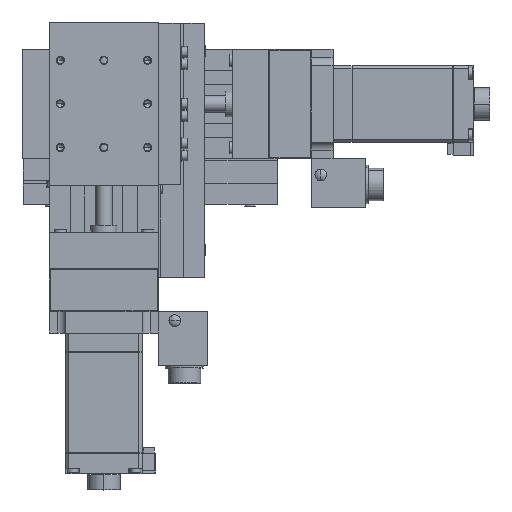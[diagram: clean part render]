
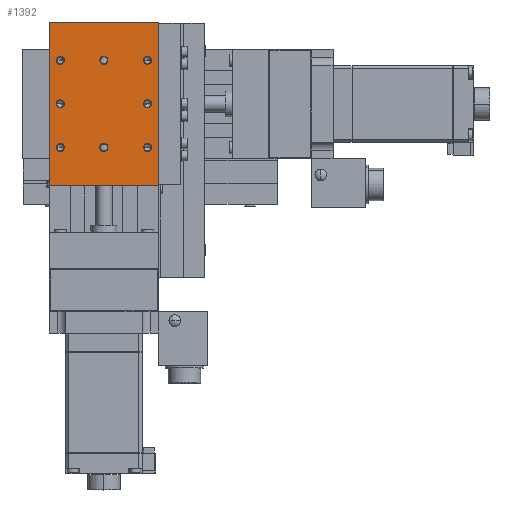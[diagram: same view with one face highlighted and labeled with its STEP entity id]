
A CAD part, top view. The second image highlights one B-rep face of the part: STEP entity #1392.
In plain terms, the highlighted planar face has unit normal (0, 0, 1).
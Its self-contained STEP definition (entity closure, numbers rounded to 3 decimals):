
#1392=ADVANCED_FACE('',(#3520,#3521,#3522,#3523,#3524,#3525,#3526,#3527,#3528),#3529,.F.);
#3520=FACE_BOUND('',#6282,.T.);
#3521=FACE_BOUND('',#6283,.T.);
#3522=FACE_BOUND('',#6284,.T.);
#3523=FACE_BOUND('',#6285,.T.);
#3524=FACE_BOUND('',#6286,.T.);
#3525=FACE_BOUND('',#6287,.T.);
#3526=FACE_BOUND('',#6288,.T.);
#3527=FACE_BOUND('',#6289,.T.);
#3528=FACE_OUTER_BOUND('',#6290,.T.);
#3529=PLANE('',#6291);
#6282=EDGE_LOOP('',(#13346,#13347));
#6283=EDGE_LOOP('',(#13348,#13349));
#6284=EDGE_LOOP('',(#13350,#13351));
#6285=EDGE_LOOP('',(#13352,#13353));
#6286=EDGE_LOOP('',(#13354,#13355));
#6287=EDGE_LOOP('',(#13356,#13357));
#6288=EDGE_LOOP('',(#13358,#13359));
#6289=EDGE_LOOP('',(#13360,#13361));
#6290=EDGE_LOOP('',(#13362,#13363,#13364,#13365));
#6291=AXIS2_PLACEMENT_3D('',#13366,#13367,#13368);
#13346=ORIENTED_EDGE('',*,*,#19612,.T.);
#13347=ORIENTED_EDGE('',*,*,#19552,.T.);
#13348=ORIENTED_EDGE('',*,*,#19632,.T.);
#13349=ORIENTED_EDGE('',*,*,#19538,.T.);
#13350=ORIENTED_EDGE('',*,*,#19693,.T.);
#13351=ORIENTED_EDGE('',*,*,#19462,.T.);
#13352=ORIENTED_EDGE('',*,*,#19638,.T.);
#13353=ORIENTED_EDGE('',*,*,#19535,.T.);
#13354=ORIENTED_EDGE('',*,*,#19611,.T.);
#13355=ORIENTED_EDGE('',*,*,#19556,.T.);
#13356=ORIENTED_EDGE('',*,*,#19627,.T.);
#13357=ORIENTED_EDGE('',*,*,#19546,.T.);
#13358=ORIENTED_EDGE('',*,*,#19689,.T.);
#13359=ORIENTED_EDGE('',*,*,#19522,.T.);
#13360=ORIENTED_EDGE('',*,*,#19694,.T.);
#13361=ORIENTED_EDGE('',*,*,#19482,.T.);
#13362=ORIENTED_EDGE('',*,*,#19669,.T.);
#13363=ORIENTED_EDGE('',*,*,#19684,.F.);
#13364=ORIENTED_EDGE('',*,*,#19695,.F.);
#13365=ORIENTED_EDGE('',*,*,#19673,.T.);
#13366=CARTESIAN_POINT('',(20.,-30.,47.));
#13367=DIRECTION('',(0.,0.,-1.0));
#13368=DIRECTION('',(1.0,0.,0.));
#19462=EDGE_CURVE('',#23803,#23807,#23809,.T.);
#19482=EDGE_CURVE('',#23843,#23847,#23849,.T.);
#19522=EDGE_CURVE('',#23918,#23920,#23922,.T.);
#19535=EDGE_CURVE('',#23939,#23941,#23943,.T.);
#19538=EDGE_CURVE('',#23944,#23946,#23948,.T.);
#19546=EDGE_CURVE('',#23958,#23962,#23964,.T.);
#19552=EDGE_CURVE('',#23970,#23972,#23974,.T.);
#19556=EDGE_CURVE('',#23976,#23980,#23982,.T.);
#19611=EDGE_CURVE('',#23980,#23976,#24072,.T.);
#19612=EDGE_CURVE('',#23972,#23970,#24073,.T.);
#19627=EDGE_CURVE('',#23962,#23958,#24096,.T.);
#19632=EDGE_CURVE('',#23946,#23944,#24105,.T.);
#19638=EDGE_CURVE('',#23941,#23939,#24113,.T.);
#19669=EDGE_CURVE('',#24158,#24156,#24159,.T.);
#19673=EDGE_CURVE('',#24163,#24158,#24164,.T.);
#19684=EDGE_CURVE('',#24177,#24156,#24179,.T.);
#19689=EDGE_CURVE('',#23920,#23918,#24186,.T.);
#19693=EDGE_CURVE('',#23807,#23803,#24190,.T.);
#19694=EDGE_CURVE('',#23847,#23843,#24191,.T.);
#19695=EDGE_CURVE('',#24163,#24177,#24192,.T.);
#23803=VERTEX_POINT('',#30258);
#23807=VERTEX_POINT('',#30263);
#23809=CIRCLE('',#30266,1.5);
#23843=VERTEX_POINT('',#30306);
#23847=VERTEX_POINT('',#30311);
#23849=CIRCLE('',#30314,1.5);
#23918=VERTEX_POINT('',#30401);
#23920=VERTEX_POINT('',#30404);
#23922=CIRCLE('',#30407,1.5);
#23939=VERTEX_POINT('',#30430);
#23941=VERTEX_POINT('',#30433);
#23943=CIRCLE('',#30436,1.5);
#23944=VERTEX_POINT('',#30437);
#23946=VERTEX_POINT('',#30440);
#23948=CIRCLE('',#30443,1.5);
#23958=VERTEX_POINT('',#30455);
#23962=VERTEX_POINT('',#30460);
#23964=CIRCLE('',#30463,1.5);
#23970=VERTEX_POINT('',#30471);
#23972=VERTEX_POINT('',#30474);
#23974=CIRCLE('',#30477,1.5);
#23976=VERTEX_POINT('',#30479);
#23980=VERTEX_POINT('',#30484);
#23982=CIRCLE('',#30487,1.5);
#24072=CIRCLE('',#30616,1.5);
#24073=CIRCLE('',#30617,1.5);
#24096=CIRCLE('',#30650,1.5);
#24105=CIRCLE('',#30663,1.5);
#24113=CIRCLE('',#30673,1.5);
#24156=VERTEX_POINT('',#30741);
#24158=VERTEX_POINT('',#30744);
#24159=LINE('',#30745,#30746);
#24163=VERTEX_POINT('',#30751);
#24164=LINE('',#30752,#30753);
#24177=VERTEX_POINT('',#30773);
#24179=LINE('',#30776,#30777);
#24186=CIRCLE('',#30787,1.5);
#24190=CIRCLE('',#30793,1.5);
#24191=CIRCLE('',#30794,1.5);
#24192=LINE('',#30795,#30796);
#30258=CARTESIAN_POINT('',(14.5,16.,47.));
#30263=CARTESIAN_POINT('',(17.5,16.,47.));
#30266=AXIS2_PLACEMENT_3D('',#36672,#36673,#36674);
#30306=CARTESIAN_POINT('',(-17.5,16.,47.));
#30311=CARTESIAN_POINT('',(-14.5,16.,47.));
#30314=AXIS2_PLACEMENT_3D('',#36716,#36717,#36718);
#30401=CARTESIAN_POINT('',(-17.5,0.,47.));
#30404=CARTESIAN_POINT('',(-14.5,0.,47.));
#30407=AXIS2_PLACEMENT_3D('',#36796,#36797,#36798);
#30430=CARTESIAN_POINT('',(-1.5,-16.,47.));
#30433=CARTESIAN_POINT('',(1.5,-16.,47.));
#30436=AXIS2_PLACEMENT_3D('',#36819,#36820,#36821);
#30437=CARTESIAN_POINT('',(14.5,0.,47.));
#30440=CARTESIAN_POINT('',(17.5,0.,47.));
#30443=AXIS2_PLACEMENT_3D('',#36824,#36825,#36826);
#30455=CARTESIAN_POINT('',(-17.5,-16.,47.));
#30460=CARTESIAN_POINT('',(-14.5,-16.,47.));
#30463=AXIS2_PLACEMENT_3D('',#36840,#36841,#36842);
#30471=CARTESIAN_POINT('',(14.5,-16.,47.));
#30474=CARTESIAN_POINT('',(17.5,-16.,47.));
#30477=AXIS2_PLACEMENT_3D('',#36850,#36851,#36852);
#30479=CARTESIAN_POINT('',(-1.5,16.,47.));
#30484=CARTESIAN_POINT('',(1.5,16.,47.));
#30487=AXIS2_PLACEMENT_3D('',#36858,#36859,#36860);
#30616=AXIS2_PLACEMENT_3D('',#36945,#36946,#36947);
#30617=AXIS2_PLACEMENT_3D('',#36948,#36949,#36950);
#30650=AXIS2_PLACEMENT_3D('',#36973,#36974,#36975);
#30663=AXIS2_PLACEMENT_3D('',#36980,#36981,#36982);
#30673=AXIS2_PLACEMENT_3D('',#36994,#36995,#36996);
#30741=CARTESIAN_POINT('',(-20.,30.,47.));
#30744=CARTESIAN_POINT('',(20.,30.,47.));
#30745=CARTESIAN_POINT('',(20.,30.,47.));
#30746=VECTOR('',#37035,1000.0);
#30751=CARTESIAN_POINT('',(20.,-30.,47.));
#30752=CARTESIAN_POINT('',(20.,-30.,47.));
#30753=VECTOR('',#37043,1000.0);
#30773=CARTESIAN_POINT('',(-20.,-30.,47.));
#30776=CARTESIAN_POINT('',(-20.,-30.,47.));
#30777=VECTOR('',#37058,1000.0);
#30787=AXIS2_PLACEMENT_3D('',#37065,#37066,#37067);
#30793=AXIS2_PLACEMENT_3D('',#37073,#37074,#37075);
#30794=AXIS2_PLACEMENT_3D('',#37076,#37077,#37078);
#30795=CARTESIAN_POINT('',(20.,-30.,47.));
#30796=VECTOR('',#37079,1000.0);
#36672=CARTESIAN_POINT('',(16.,16.,47.));
#36673=DIRECTION('',(0.,0.,-1.0));
#36674=DIRECTION('',(1.0,0.,0.));
#36716=CARTESIAN_POINT('',(-16.,16.,47.));
#36717=DIRECTION('',(0.,0.,-1.0));
#36718=DIRECTION('',(1.0,0.,0.));
#36796=CARTESIAN_POINT('',(-16.,0.,47.));
#36797=DIRECTION('',(0.,0.,-1.0));
#36798=DIRECTION('',(1.0,0.,0.));
#36819=CARTESIAN_POINT('',(0.,-16.,47.));
#36820=DIRECTION('',(0.,0.,-1.0));
#36821=DIRECTION('',(1.0,0.,0.));
#36824=CARTESIAN_POINT('',(16.,0.,47.));
#36825=DIRECTION('',(0.,0.,-1.0));
#36826=DIRECTION('',(1.0,0.,0.));
#36840=CARTESIAN_POINT('',(-16.,-16.,47.));
#36841=DIRECTION('',(0.,0.,-1.0));
#36842=DIRECTION('',(1.0,0.,0.));
#36850=CARTESIAN_POINT('',(16.,-16.,47.));
#36851=DIRECTION('',(0.,0.,-1.0));
#36852=DIRECTION('',(1.0,0.,0.));
#36858=CARTESIAN_POINT('',(0.,16.,47.));
#36859=DIRECTION('',(0.,0.,-1.0));
#36860=DIRECTION('',(1.0,0.,0.));
#36945=CARTESIAN_POINT('',(0.,16.,47.));
#36946=DIRECTION('',(0.,0.,-1.0));
#36947=DIRECTION('',(1.0,0.,0.));
#36948=CARTESIAN_POINT('',(16.,-16.,47.));
#36949=DIRECTION('',(0.,0.,-1.0));
#36950=DIRECTION('',(1.0,0.,0.));
#36973=CARTESIAN_POINT('',(-16.,-16.,47.));
#36974=DIRECTION('',(0.,0.,-1.0));
#36975=DIRECTION('',(1.0,0.,0.));
#36980=CARTESIAN_POINT('',(16.,0.,47.));
#36981=DIRECTION('',(0.,0.,-1.0));
#36982=DIRECTION('',(1.0,0.,0.));
#36994=CARTESIAN_POINT('',(0.,-16.,47.));
#36995=DIRECTION('',(0.,0.,-1.0));
#36996=DIRECTION('',(1.0,0.,0.));
#37035=DIRECTION('',(-1.0,0.,0.));
#37043=DIRECTION('',(0.,1.0,0.0));
#37058=DIRECTION('',(0.,1.0,0.0));
#37065=CARTESIAN_POINT('',(-16.,0.,47.));
#37066=DIRECTION('',(0.,0.,-1.0));
#37067=DIRECTION('',(1.0,0.,0.));
#37073=CARTESIAN_POINT('',(16.,16.,47.));
#37074=DIRECTION('',(0.,0.,-1.0));
#37075=DIRECTION('',(1.0,0.,0.));
#37076=CARTESIAN_POINT('',(-16.,16.,47.));
#37077=DIRECTION('',(0.,0.,-1.0));
#37078=DIRECTION('',(1.0,0.,0.));
#37079=DIRECTION('',(-1.0,0.,0.));
